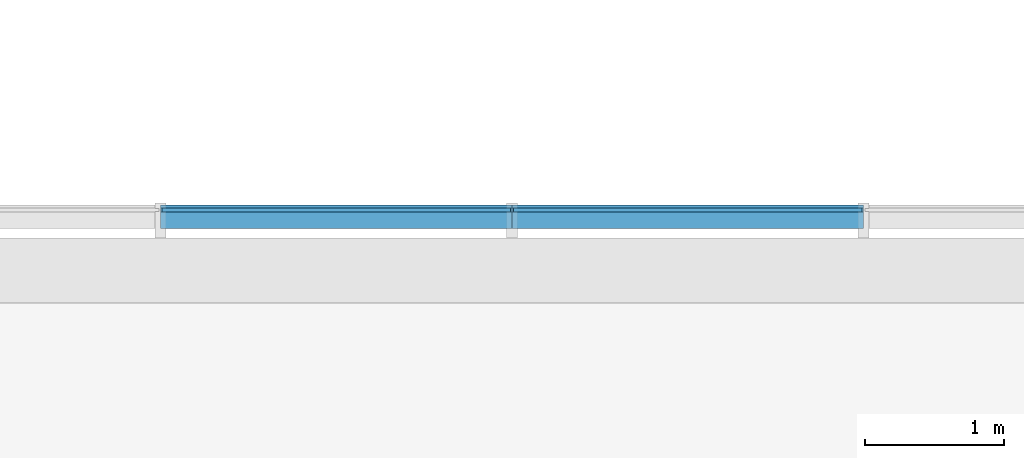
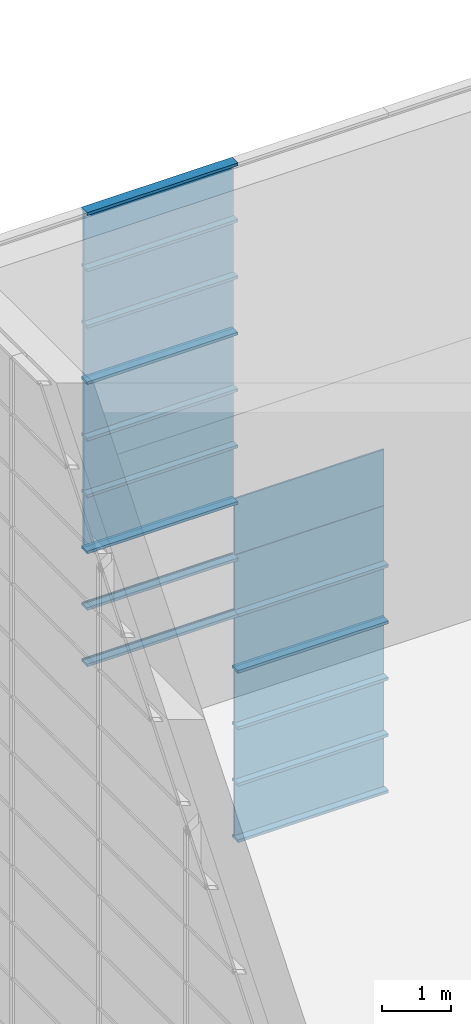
# One storey, part 41 of 105: 29 building element parts, 4 elements without a shape of their own.
"""IFC4 building model written with IfcOpenShell, lengths in millimetres."""

from ifc_helpers import new_model, entity, si_unit, converted_unit, derived_unit, direction, frame, origin_with_axes, place, context, subcontext, project, spatial, triangles, material, element, aggregate, save


model = new_model("IFC4")

# Units and contexts
model_context = context("Model", 3, precision=1e-05, world=origin_with_axes(), true_north=direction((0.0, 1.0)))
body_context = subcontext(model_context, "Body", "Model", "MODEL_VIEW")
ifc_project = project(units=[si_unit("LENGTHUNIT", "METRE", prefix="MILLI"), si_unit("AREAUNIT", "SQUARE_METRE"), si_unit("VOLUMEUNIT", "CUBIC_METRE"), converted_unit("PLANEANGLEUNIT", "DEGREE", entity("IfcLengthMeasure", 0.017453), si_unit("PLANEANGLEUNIT", "RADIAN"), dimensions=[0, 0, 0, 0, 0, 0, 0]), si_unit("SOLIDANGLEUNIT", "STERADIAN"), si_unit("MASSUNIT", "GRAM"), si_unit("TIMEUNIT", "SECOND"), si_unit("THERMODYNAMICTEMPERATUREUNIT", "DEGREE_CELSIUS"), si_unit("LUMINOUSINTENSITYUNIT", "LUMEN"), si_unit("POWERUNIT", "WATT"), derived_unit("THERMALTRANSMITTANCEUNIT", [(si_unit("POWERUNIT", "WATT"), 1), (si_unit("THERMODYNAMICTEMPERATUREUNIT", "KELVIN"), -1), (si_unit("AREAUNIT", "SQUARE_METRE"), -1)])], contexts=[model_context])

# Site, building, storey
site_placement = place(None, origin_with_axes())
site = spatial("IfcSite", under=ifc_project, at=site_placement, Name="Default Site", CompositionType="ELEMENT")
building_placement = place(site_placement, origin_with_axes())
building = spatial("IfcBuilding", under=site, at=building_placement, Name="Default Building", CompositionType="ELEMENT")
storey_placement = place(building_placement, origin_with_axes())
storey = spatial("IfcBuildingStorey", under=building, at=storey_placement, Name="OG - Story", CompositionType="ELEMENT", Elevation=0.0)

# Curtain wall, building element parts
curtain_wall_1_placement = place(storey_placement, origin_with_axes())
curtain_wall_1 = element("IfcCurtainWall", 1, at=curtain_wall_1_placement, inside=storey, Name="Fassade-004", PredefinedType="NOTDEFINED")
ifc_material_1 = material(Name="Normalglas")
building_element_part_1_placement = place(curtain_wall_1_placement, frame((33014.549222, -4389.262838, 0.0), z_axis=(0.0, 0.0, 1.0), x_axis=(1.0, 0.0, 0.0)))
building_element_part_1 = element("IfcBuildingElementPart", 2, at=building_element_part_1_placement, material=ifc_material_1, Name="Normalglas", PredefinedType="NOTDEFINED", context=body_context, shape_type="Tessellation", body=[
    triangles([(6305.789, -14.999, 995.0), (6305.789, 15.0, 995.0), (3799.474, 15.0, 995.0), (3799.474, -14.999, 995.0), (6305.789, -14.999, 5.0), (6305.789, 15.0, 5.0), (3799.474, 15.0, 5.0), (3799.474, -14.999, 5.0)], [[1, 2, 3], [1, 3, 4], [5, 6, 2], [5, 2, 1], [2, 6, 7], [2, 7, 3], [4, 3, 7], [4, 7, 8], [1, 4, 8], [1, 8, 5], [8, 7, 6], [8, 6, 5]], closed=False),
])
building_element_part_2_placement = place(curtain_wall_1_placement, frame((33014.549222, -4389.262838, 0.0), z_axis=(0.0, 0.0, 1.0), x_axis=(1.0, 0.0, 0.0)))
building_element_part_2 = element("IfcBuildingElementPart", 3, at=building_element_part_2_placement, material=ifc_material_1, Name="Normalglas", PredefinedType="NOTDEFINED", context=body_context, shape_type="Tessellation", body=[
    triangles([(6305.789, -14.999, 1995.0), (6305.789, 15.0, 1995.0), (3799.474, 15.0, 1995.0), (3799.474, -14.999, 1995.0), (6305.789, -14.999, 1005.0), (6305.789, 15.0, 1005.0), (3799.474, 15.0, 1005.0), (3799.474, -14.999, 1005.0)], [[1, 2, 3], [1, 3, 4], [5, 6, 2], [5, 2, 1], [2, 6, 7], [2, 7, 3], [4, 3, 7], [4, 7, 8], [1, 4, 8], [1, 8, 5], [8, 7, 6], [8, 6, 5]], closed=False),
])
building_element_part_3_placement = place(curtain_wall_1_placement, frame((33014.549222, -4389.262838, 0.0), z_axis=(0.0, 0.0, 1.0), x_axis=(1.0, 0.0, 0.0)))
building_element_part_3 = element("IfcBuildingElementPart", 4, at=building_element_part_3_placement, material=ifc_material_1, Name="Normalglas", PredefinedType="NOTDEFINED", context=body_context, shape_type="Tessellation", body=[
    triangles([(6305.789, -14.999, 2995.0), (6305.789, 15.0, 2995.0), (3799.474, 15.0, 2995.0), (3799.474, -14.999, 2995.0), (6305.789, -14.999, 2005.0), (6305.789, 15.0, 2005.0), (3799.474, 15.0, 2005.0), (3799.474, -14.999, 2005.0)], [[1, 2, 3], [1, 3, 4], [5, 6, 2], [5, 2, 1], [2, 6, 7], [2, 7, 3], [4, 3, 7], [4, 7, 8], [1, 4, 8], [1, 8, 5], [8, 7, 6], [8, 6, 5]], closed=False),
])
ifc_material_2 = material(Name="Blech")
building_element_part_4_placement = place(curtain_wall_1_placement, frame((33014.549222, -4389.262838, 0.0), z_axis=(0.0, 0.0, 1.0), x_axis=(1.0, 0.0, 0.0)))
building_element_part_4 = element("IfcBuildingElementPart", 5, at=building_element_part_4_placement, material=ifc_material_2, Name="Blech", PredefinedType="NOTDEFINED", context=body_context, shape_type="Tessellation", body=[
    triangles([(6315.789, 35.0, -24.999), (6315.789, 35.0, 25.0), (6315.789, 15.0, 25.0), (6315.789, 15.0, 5.0), (6315.789, -14.999, 5.0), (6315.789, -132.999, 25.0), (6315.789, -132.999, -24.999), (6315.789, -14.999, 25.0), (3789.474, -14.999, 5.0), (3789.474, -14.999, 25.0), (3789.474, -132.999, 25.0), (3789.474, -132.999, -24.999), (3789.474, 35.0, -24.999), (3789.474, 35.0, 25.0), (3789.474, 15.0, 25.0), (3789.474, 15.0, 5.0)], [[1, 2, 3], [1, 3, 4], [1, 4, 5], [1, 5, 6], [1, 6, 7], [8, 6, 5], [5, 9, 10], [5, 10, 8], [10, 11, 6], [10, 6, 8], [11, 12, 7], [11, 7, 6], [12, 13, 1], [12, 1, 7], [13, 14, 2], [13, 2, 1], [3, 2, 14], [3, 14, 15], [15, 16, 4], [15, 4, 3], [4, 16, 9], [4, 9, 5], [15, 16, 13], [13, 16, 9], [13, 9, 11], [11, 9, 10], [13, 11, 12], [15, 13, 14]], closed=False),
])
building_element_part_5_placement = place(curtain_wall_1_placement, frame((33014.549222, -4389.262838, 0.0), z_axis=(0.0, 0.0, 1.0), x_axis=(1.0, 0.0, 0.0)))
building_element_part_5 = element("IfcBuildingElementPart", 6, at=building_element_part_5_placement, material=ifc_material_2, Name="Blech", PredefinedType="NOTDEFINED", context=body_context, shape_type="Tessellation", body=[
    triangles([(6315.789, 35.0, 975.0), (6315.789, 15.0, 975.0), (6315.789, 35.0, 1025.0), (6315.789, 15.0, 995.0), (6315.789, 15.0, 1005.0), (6315.789, -14.999, 995.0), (6315.789, -14.999, 1005.0), (6315.789, -14.999, 1025.0), (6315.789, -14.999, 975.0), (6315.789, -132.999, 975.0), (6315.789, -132.999, 1025.0), (6315.789, 15.0, 1025.0), (3789.474, -14.999, 995.0), (3789.474, 15.0, 995.0), (3789.474, 15.0, 975.0), (3789.474, 35.0, 975.0), (3789.474, 35.0, 1025.0), (3789.474, 15.0, 1025.0), (3789.474, 15.0, 1005.0), (3789.474, -14.999, 1005.0), (3789.474, -14.999, 1025.0), (3789.474, -132.999, 1025.0), (3789.474, -132.999, 975.0), (3789.474, -14.999, 975.0)], [[1, 2, 3], [3, 2, 4], [3, 4, 5], [5, 4, 6], [5, 6, 7], [8, 9, 10], [8, 10, 11], [3, 5, 12], [6, 13, 14], [6, 14, 4], [4, 14, 15], [4, 15, 2], [15, 16, 1], [15, 1, 2], [1, 16, 17], [1, 17, 3], [18, 12, 3], [18, 3, 17], [12, 18, 19], [12, 19, 5], [7, 5, 19], [7, 19, 20], [8, 7, 20], [8, 20, 21], [8, 21, 22], [8, 22, 11], [11, 22, 23], [11, 23, 10], [9, 10, 23], [9, 23, 24], [9, 24, 13], [9, 13, 6], [17, 18, 16], [16, 18, 19], [16, 19, 14], [14, 19, 20], [14, 20, 13], [24, 21, 22], [24, 22, 23], [16, 14, 15]], closed=False),
])
building_element_part_6_placement = place(curtain_wall_1_placement, frame((33014.549222, -4389.262838, 0.0), z_axis=(0.0, 0.0, 1.0), x_axis=(1.0, 0.0, 0.0)))
building_element_part_6 = element("IfcBuildingElementPart", 7, at=building_element_part_6_placement, material=ifc_material_2, Name="Blech", PredefinedType="NOTDEFINED", context=body_context, shape_type="Tessellation", body=[
    triangles([(6315.789, 35.0, 1975.0), (6315.789, 15.0, 1975.0), (6315.789, 35.0, 2025.0), (6315.789, 15.0, 1995.0), (6315.789, 15.0, 2005.0), (6315.789, -14.999, 1995.0), (6315.789, -14.999, 2005.0), (6315.789, -14.999, 2025.0), (6315.789, -14.999, 1975.0), (6315.789, -132.999, 1975.0), (6315.789, -132.999, 2025.0), (6315.789, 15.0, 2025.0), (3789.474, -14.999, 1995.0), (3789.474, 15.0, 1995.0), (3789.474, 15.0, 1975.0), (3789.474, 35.0, 1975.0), (3789.474, 35.0, 2025.0), (3789.474, 15.0, 2025.0), (3789.474, 15.0, 2005.0), (3789.474, -14.999, 2005.0), (3789.474, -14.999, 2025.0), (3789.474, -132.999, 2025.0), (3789.474, -132.999, 1975.0), (3789.474, -14.999, 1975.0)], [[1, 2, 3], [3, 2, 4], [3, 4, 5], [5, 4, 6], [5, 6, 7], [8, 9, 10], [8, 10, 11], [3, 5, 12], [6, 13, 14], [6, 14, 4], [4, 14, 15], [4, 15, 2], [15, 16, 1], [15, 1, 2], [1, 16, 17], [1, 17, 3], [18, 12, 3], [18, 3, 17], [12, 18, 19], [12, 19, 5], [7, 5, 19], [7, 19, 20], [8, 7, 20], [8, 20, 21], [8, 21, 22], [8, 22, 11], [11, 22, 23], [11, 23, 10], [9, 10, 23], [9, 23, 24], [9, 24, 13], [9, 13, 6], [17, 18, 16], [16, 18, 19], [16, 19, 14], [14, 19, 20], [14, 20, 13], [24, 21, 22], [24, 22, 23], [16, 14, 15]], closed=False),
])
building_element_part_7_placement = place(curtain_wall_1_placement, frame((33014.549222, -4389.262838, 0.0), z_axis=(0.0, 0.0, 1.0), x_axis=(1.0, 0.0, 0.0)))
building_element_part_7 = element("IfcBuildingElementPart", 8, at=building_element_part_7_placement, material=ifc_material_2, Name="Blech", PredefinedType="NOTDEFINED", context=body_context, shape_type="Tessellation", body=[
    triangles([(6315.789, 15.0, 2975.0), (6315.789, 15.0, 2995.0), (6315.789, 35.0, 3025.0), (6315.789, -14.999, 2995.0), (6315.789, -132.999, 2975.0), (6315.789, -14.999, 2975.0), (6315.789, -132.999, 3025.0), (6315.789, 35.0, 2975.0), (3789.474, -14.999, 2995.0), (3789.474, 15.0, 2995.0), (3789.474, 15.0, 2975.0), (3789.474, 35.0, 2975.0), (3789.474, 35.0, 3025.0), (3789.474, -132.999, 3025.0), (3789.474, -132.999, 2975.0), (3789.474, -14.999, 2975.0)], [[1, 2, 3], [3, 2, 4], [3, 4, 5], [5, 4, 6], [3, 5, 7], [1, 3, 8], [2, 4, 9], [2, 9, 10], [11, 1, 2], [11, 2, 10], [1, 11, 12], [1, 12, 8], [13, 3, 8], [13, 8, 12], [14, 7, 3], [14, 3, 13], [15, 5, 7], [15, 7, 14], [16, 6, 5], [16, 5, 15], [4, 6, 16], [4, 16, 9], [13, 12, 11], [13, 11, 10], [13, 10, 9], [13, 9, 15], [13, 15, 14], [16, 15, 9]], closed=False),
])
aggregate(curtain_wall_1, [building_element_part_1, building_element_part_2, building_element_part_3, building_element_part_4, building_element_part_5, building_element_part_6, building_element_part_7])

curtain_wall_2_placement = place(storey_placement, origin_with_axes())
curtain_wall_2 = element("IfcCurtainWall", 9, at=curtain_wall_2_placement, inside=storey, Name="Fassade-004", PredefinedType="NOTDEFINED")
building_element_part_8_placement = place(curtain_wall_2_placement, frame((33014.549222, -4389.262838, 3000.0), z_axis=(0.0, 0.0, 1.0), x_axis=(1.0, 0.0, 0.0)))
building_element_part_8 = element("IfcBuildingElementPart", 10, at=building_element_part_8_placement, material=ifc_material_1, Name="Normalglas", PredefinedType="NOTDEFINED", context=body_context, shape_type="Tessellation", body=[
    triangles([(6305.789, -14.999, 995.0), (6305.789, 15.0, 995.0), (3799.474, 15.0, 995.0), (3799.474, -14.999, 995.0), (6305.789, -14.999, 5.0), (6305.789, 15.0, 5.0), (3799.474, 15.0, 5.0), (3799.474, -14.999, 5.0)], [[1, 2, 3], [1, 3, 4], [5, 6, 2], [5, 2, 1], [2, 6, 7], [2, 7, 3], [4, 3, 7], [4, 7, 8], [1, 4, 8], [1, 8, 5], [8, 7, 6], [8, 6, 5]], closed=False),
])
building_element_part_9_placement = place(curtain_wall_2_placement, frame((33014.549222, -4389.262838, 3000.0), z_axis=(0.0, 0.0, 1.0), x_axis=(1.0, 0.0, 0.0)))
building_element_part_9 = element("IfcBuildingElementPart", 11, at=building_element_part_9_placement, material=ifc_material_1, Name="Normalglas", PredefinedType="NOTDEFINED", context=body_context, shape_type="Tessellation", body=[
    triangles([(6305.789, -14.999, 1995.0), (6305.789, 15.0, 1995.0), (3799.474, 15.0, 1995.0), (3799.474, -14.999, 1995.0), (6305.789, -14.999, 1005.0), (6305.789, 15.0, 1005.0), (3799.474, 15.0, 1005.0), (3799.474, -14.999, 1005.0)], [[1, 2, 3], [1, 3, 4], [5, 6, 2], [5, 2, 1], [2, 6, 7], [2, 7, 3], [4, 3, 7], [4, 7, 8], [1, 4, 8], [1, 8, 5], [8, 7, 6], [8, 6, 5]], closed=False),
])
building_element_part_10_placement = place(curtain_wall_2_placement, frame((33014.549222, -4389.262838, 3000.0), z_axis=(0.0, 0.0, 1.0), x_axis=(1.0, 0.0, 0.0)))
building_element_part_10 = element("IfcBuildingElementPart", 12, at=building_element_part_10_placement, material=ifc_material_1, Name="Normalglas", PredefinedType="NOTDEFINED", context=body_context, shape_type="Tessellation", body=[
    triangles([(6305.789, -14.999, 2995.0), (6305.789, 15.0, 2995.0), (3799.474, 15.0, 2995.0), (3799.474, -14.999, 2995.0), (6305.789, -14.999, 2005.0), (6305.789, 15.0, 2005.0), (3799.474, 15.0, 2005.0), (3799.474, -14.999, 2005.0)], [[1, 2, 3], [1, 3, 4], [5, 6, 2], [5, 2, 1], [2, 6, 7], [2, 7, 3], [4, 3, 7], [4, 7, 8], [1, 4, 8], [1, 8, 5], [8, 7, 6], [8, 6, 5]], closed=False),
])
building_element_part_11_placement = place(curtain_wall_2_placement, frame((33014.549222, -4389.262838, 3000.0), z_axis=(0.0, 0.0, 1.0), x_axis=(1.0, 0.0, 0.0)))
building_element_part_11 = element("IfcBuildingElementPart", 13, at=building_element_part_11_placement, material=ifc_material_2, Name="Blech", PredefinedType="NOTDEFINED", context=body_context, shape_type="Tessellation", body=[
    triangles([(6315.789, 35.0, -24.999), (6315.789, 35.0, 25.0), (6315.789, 15.0, 25.0), (6315.789, 15.0, 5.0), (6315.789, -14.999, 5.0), (6315.789, -132.999, 25.0), (6315.789, -132.999, -24.999), (6315.789, -14.999, 25.0), (3789.474, -14.999, 5.0), (3789.474, -14.999, 25.0), (3789.474, -132.999, 25.0), (3789.474, -132.999, -24.999), (3789.474, 35.0, -24.999), (3789.474, 35.0, 25.0), (3789.474, 15.0, 25.0), (3789.474, 15.0, 5.0)], [[1, 2, 3], [1, 3, 4], [1, 4, 5], [1, 5, 6], [1, 6, 7], [8, 6, 5], [5, 9, 10], [5, 10, 8], [10, 11, 6], [10, 6, 8], [11, 12, 7], [11, 7, 6], [12, 13, 1], [12, 1, 7], [13, 14, 2], [13, 2, 1], [3, 2, 14], [3, 14, 15], [15, 16, 4], [15, 4, 3], [4, 16, 9], [4, 9, 5], [15, 16, 13], [13, 16, 9], [13, 9, 11], [11, 9, 10], [13, 11, 12], [15, 13, 14]], closed=False),
])
building_element_part_12_placement = place(curtain_wall_2_placement, frame((33014.549222, -4389.262838, 3000.0), z_axis=(0.0, 0.0, 1.0), x_axis=(1.0, 0.0, 0.0)))
building_element_part_12 = element("IfcBuildingElementPart", 14, at=building_element_part_12_placement, material=ifc_material_2, Name="Blech", PredefinedType="NOTDEFINED", context=body_context, shape_type="Tessellation", body=[
    triangles([(3789.474, 35.0, 975.0), (3789.474, 15.0, 975.0), (3789.474, 35.0, 1025.0), (3789.474, 15.0, 995.0), (3789.474, 15.0, 1005.0), (3789.474, -14.999, 995.0), (3789.474, -14.999, 1005.0), (3789.474, -14.999, 1025.0), (3789.474, -14.999, 975.0), (3789.474, -132.999, 975.0), (3789.474, -132.999, 1025.0), (3789.474, 15.0, 1025.0), (1263.158, -14.999, 995.0), (1263.158, 15.0, 995.0), (1263.158, 15.0, 975.0), (1263.158, 35.0, 975.0), (1263.158, 35.0, 1025.0), (1263.158, 15.0, 1025.0), (1263.158, 15.0, 1005.0), (1263.158, -14.999, 1005.0), (1263.158, -14.999, 1025.0), (1263.158, -132.999, 1025.0), (1263.158, -132.999, 975.0), (1263.158, -14.999, 975.0)], [[1, 2, 3], [3, 2, 4], [3, 4, 5], [5, 4, 6], [5, 6, 7], [8, 9, 10], [8, 10, 11], [3, 5, 12], [6, 13, 14], [6, 14, 4], [4, 14, 15], [4, 15, 2], [15, 16, 1], [15, 1, 2], [1, 16, 17], [1, 17, 3], [18, 12, 3], [18, 3, 17], [12, 18, 19], [12, 19, 5], [7, 5, 19], [7, 19, 20], [8, 7, 20], [8, 20, 21], [8, 21, 22], [8, 22, 11], [11, 22, 23], [11, 23, 10], [9, 10, 23], [9, 23, 24], [9, 24, 13], [9, 13, 6], [17, 18, 16], [16, 18, 19], [16, 19, 14], [14, 19, 20], [14, 20, 13], [24, 21, 22], [24, 22, 23], [16, 14, 15]], closed=False),
])
building_element_part_13_placement = place(curtain_wall_2_placement, frame((33014.549222, -4389.262838, 3000.0), z_axis=(0.0, 0.0, 1.0), x_axis=(1.0, 0.0, 0.0)))
building_element_part_13 = element("IfcBuildingElementPart", 15, at=building_element_part_13_placement, material=ifc_material_2, Name="Blech", PredefinedType="NOTDEFINED", context=body_context, shape_type="Tessellation", body=[
    triangles([(6315.789, 35.0, 975.0), (6315.789, 15.0, 975.0), (6315.789, 35.0, 1025.0), (6315.789, 15.0, 995.0), (6315.789, 15.0, 1005.0), (6315.789, -14.999, 995.0), (6315.789, -14.999, 1005.0), (6315.789, -14.999, 1025.0), (6315.789, -14.999, 975.0), (6315.789, -132.999, 975.0), (6315.789, -132.999, 1025.0), (6315.789, 15.0, 1025.0), (3789.474, -14.999, 995.0), (3789.474, 15.0, 995.0), (3789.474, 15.0, 975.0), (3789.474, 35.0, 975.0), (3789.474, 35.0, 1025.0), (3789.474, 15.0, 1025.0), (3789.474, 15.0, 1005.0), (3789.474, -14.999, 1005.0), (3789.474, -14.999, 1025.0), (3789.474, -132.999, 1025.0), (3789.474, -132.999, 975.0), (3789.474, -14.999, 975.0)], [[1, 2, 3], [3, 2, 4], [3, 4, 5], [5, 4, 6], [5, 6, 7], [8, 9, 10], [8, 10, 11], [3, 5, 12], [6, 13, 14], [6, 14, 4], [4, 14, 15], [4, 15, 2], [15, 16, 1], [15, 1, 2], [1, 16, 17], [1, 17, 3], [18, 12, 3], [18, 3, 17], [12, 18, 19], [12, 19, 5], [7, 5, 19], [7, 19, 20], [8, 7, 20], [8, 20, 21], [8, 21, 22], [8, 22, 11], [11, 22, 23], [11, 23, 10], [9, 10, 23], [9, 23, 24], [9, 24, 13], [9, 13, 6], [17, 18, 16], [16, 18, 19], [16, 19, 14], [14, 19, 20], [14, 20, 13], [24, 21, 22], [24, 22, 23], [16, 14, 15]], closed=False),
])
building_element_part_14_placement = place(curtain_wall_2_placement, frame((33014.549222, -4389.262838, 3000.0), z_axis=(0.0, 0.0, 1.0), x_axis=(1.0, 0.0, 0.0)))
building_element_part_14 = element("IfcBuildingElementPart", 16, at=building_element_part_14_placement, material=ifc_material_2, Name="Blech", PredefinedType="NOTDEFINED", context=body_context, shape_type="Tessellation", body=[
    triangles([(3789.474, 35.0, 1975.0), (3789.474, 15.0, 1975.0), (3789.474, 35.0, 2025.0), (3789.474, 15.0, 1995.0), (3789.474, 15.0, 2005.0), (3789.474, -14.999, 1995.0), (3789.474, -14.999, 2005.0), (3789.474, -14.999, 2025.0), (3789.474, -14.999, 1975.0), (3789.474, -132.999, 1975.0), (3789.474, -132.999, 2025.0), (3789.474, 15.0, 2025.0), (1263.158, -14.999, 1995.0), (1263.158, 15.0, 1995.0), (1263.158, 15.0, 1975.0), (1263.158, 35.0, 1975.0), (1263.158, 35.0, 2025.0), (1263.158, 15.0, 2025.0), (1263.158, 15.0, 2005.0), (1263.158, -14.999, 2005.0), (1263.158, -14.999, 2025.0), (1263.158, -132.999, 2025.0), (1263.158, -132.999, 1975.0), (1263.158, -14.999, 1975.0)], [[1, 2, 3], [3, 2, 4], [3, 4, 5], [5, 4, 6], [5, 6, 7], [8, 9, 10], [8, 10, 11], [3, 5, 12], [6, 13, 14], [6, 14, 4], [4, 14, 15], [4, 15, 2], [15, 16, 1], [15, 1, 2], [1, 16, 17], [1, 17, 3], [18, 12, 3], [18, 3, 17], [12, 18, 19], [12, 19, 5], [7, 5, 19], [7, 19, 20], [8, 7, 20], [8, 20, 21], [8, 21, 22], [8, 22, 11], [11, 22, 23], [11, 23, 10], [9, 10, 23], [9, 23, 24], [9, 24, 13], [9, 13, 6], [17, 18, 16], [16, 18, 19], [16, 19, 14], [14, 19, 20], [14, 20, 13], [24, 21, 22], [24, 22, 23], [16, 14, 15]], closed=False),
])
building_element_part_15_placement = place(curtain_wall_2_placement, frame((33014.549222, -4389.262838, 3000.0), z_axis=(0.0, 0.0, 1.0), x_axis=(1.0, 0.0, 0.0)))
building_element_part_15 = element("IfcBuildingElementPart", 17, at=building_element_part_15_placement, material=ifc_material_2, Name="Blech", PredefinedType="NOTDEFINED", context=body_context, shape_type="Tessellation", body=[
    triangles([(3789.474, 15.0, 2975.0), (3789.474, 15.0, 2995.0), (3789.474, 35.0, 3025.0), (3789.474, -14.999, 2995.0), (3789.474, -132.999, 2975.0), (3789.474, -14.999, 2975.0), (3789.474, -132.999, 3025.0), (3789.474, 35.0, 2975.0), (1263.158, -14.999, 2995.0), (1263.158, 15.0, 2995.0), (1263.158, 15.0, 2975.0), (1263.158, 35.0, 2975.0), (1263.158, 35.0, 3025.0), (1263.158, -132.999, 3025.0), (1263.158, -132.999, 2975.0), (1263.158, -14.999, 2975.0)], [[1, 2, 3], [3, 2, 4], [3, 4, 5], [5, 4, 6], [3, 5, 7], [1, 3, 8], [2, 4, 9], [2, 9, 10], [11, 1, 2], [11, 2, 10], [1, 11, 12], [1, 12, 8], [13, 3, 8], [13, 8, 12], [14, 7, 3], [14, 3, 13], [15, 5, 7], [15, 7, 14], [16, 6, 5], [16, 5, 15], [4, 6, 16], [4, 16, 9], [13, 12, 11], [13, 11, 10], [13, 10, 9], [13, 9, 15], [13, 15, 14], [16, 15, 9]], closed=False),
])
aggregate(curtain_wall_2, [building_element_part_8, building_element_part_9, building_element_part_10, building_element_part_11, building_element_part_12, building_element_part_13, building_element_part_14, building_element_part_15])

curtain_wall_3_placement = place(storey_placement, origin_with_axes())
curtain_wall_3 = element("IfcCurtainWall", 18, at=curtain_wall_3_placement, inside=storey, Name="Fassade-004", PredefinedType="NOTDEFINED")
building_element_part_16_placement = place(curtain_wall_3_placement, frame((33014.549222, -4389.262838, 6000.0), z_axis=(0.0, 0.0, 1.0), x_axis=(1.0, 0.0, 0.0)))
building_element_part_16 = element("IfcBuildingElementPart", 19, at=building_element_part_16_placement, material=ifc_material_1, Name="Normalglas", PredefinedType="NOTDEFINED", context=body_context, shape_type="Tessellation", body=[
    triangles([(3779.474, -14.999, 995.0), (3779.474, 15.0, 995.0), (1273.158, 15.0, 995.0), (1273.158, -14.999, 995.0), (3779.474, -14.999, 5.0), (3779.474, 15.0, 5.0), (1273.158, 15.0, 5.0), (1273.158, -14.999, 5.0)], [[1, 2, 3], [1, 3, 4], [5, 6, 2], [5, 2, 1], [2, 6, 7], [2, 7, 3], [4, 3, 7], [4, 7, 8], [1, 4, 8], [1, 8, 5], [8, 7, 6], [8, 6, 5]], closed=False),
])
building_element_part_17_placement = place(curtain_wall_3_placement, frame((33014.549222, -4389.262838, 6000.0), z_axis=(0.0, 0.0, 1.0), x_axis=(1.0, 0.0, 0.0)))
building_element_part_17 = element("IfcBuildingElementPart", 20, at=building_element_part_17_placement, material=ifc_material_1, Name="Normalglas", PredefinedType="NOTDEFINED", context=body_context, shape_type="Tessellation", body=[
    triangles([(3779.474, -14.999, 1995.0), (3779.474, 15.0, 1995.0), (1273.158, 15.0, 1995.0), (1273.158, -14.999, 1995.0), (3779.474, -14.999, 1005.0), (3779.474, 15.0, 1005.0), (1273.158, 15.0, 1005.0), (1273.158, -14.999, 1005.0)], [[1, 2, 3], [1, 3, 4], [5, 6, 2], [5, 2, 1], [2, 6, 7], [2, 7, 3], [4, 3, 7], [4, 7, 8], [1, 4, 8], [1, 8, 5], [8, 7, 6], [8, 6, 5]], closed=False),
])
building_element_part_18_placement = place(curtain_wall_3_placement, frame((33014.549222, -4389.262838, 6000.0), z_axis=(0.0, 0.0, 1.0), x_axis=(1.0, 0.0, 0.0)))
building_element_part_18 = element("IfcBuildingElementPart", 21, at=building_element_part_18_placement, material=ifc_material_1, Name="Normalglas", PredefinedType="NOTDEFINED", context=body_context, shape_type="Tessellation", body=[
    triangles([(3779.474, -14.999, 2995.0), (3779.474, 15.0, 2995.0), (1273.158, 15.0, 2995.0), (1273.158, -14.999, 2995.0), (3779.474, -14.999, 2005.0), (3779.474, 15.0, 2005.0), (1273.158, 15.0, 2005.0), (1273.158, -14.999, 2005.0)], [[1, 2, 3], [1, 3, 4], [5, 6, 2], [5, 2, 1], [2, 6, 7], [2, 7, 3], [4, 3, 7], [4, 7, 8], [1, 4, 8], [1, 8, 5], [8, 7, 6], [8, 6, 5]], closed=False),
])
building_element_part_19_placement = place(curtain_wall_3_placement, frame((33014.549222, -4389.262838, 6000.0), z_axis=(0.0, 0.0, 1.0), x_axis=(1.0, 0.0, 0.0)))
building_element_part_19 = element("IfcBuildingElementPart", 22, at=building_element_part_19_placement, material=ifc_material_2, Name="Blech", PredefinedType="NOTDEFINED", context=body_context, shape_type="Tessellation", body=[
    triangles([(3789.474, 35.0, -24.999), (3789.474, 35.0, 25.0), (3789.474, 15.0, 25.0), (3789.474, 15.0, 5.0), (3789.474, -14.999, 5.0), (3789.474, -132.999, 25.0), (3789.474, -132.999, -24.999), (3789.474, -14.999, 25.0), (1263.158, -14.999, 5.0), (1263.158, -14.999, 25.0), (1263.158, -132.999, 25.0), (1263.158, -132.999, -24.999), (1263.158, 35.0, -24.999), (1263.158, 35.0, 25.0), (1263.158, 15.0, 25.0), (1263.158, 15.0, 5.0)], [[1, 2, 3], [1, 3, 4], [1, 4, 5], [1, 5, 6], [1, 6, 7], [8, 6, 5], [5, 9, 10], [5, 10, 8], [10, 11, 6], [10, 6, 8], [11, 12, 7], [11, 7, 6], [12, 13, 1], [12, 1, 7], [13, 14, 2], [13, 2, 1], [3, 2, 14], [3, 14, 15], [15, 16, 4], [15, 4, 3], [4, 16, 9], [4, 9, 5], [15, 16, 13], [13, 16, 9], [13, 9, 11], [11, 9, 10], [13, 11, 12], [15, 13, 14]], closed=False),
])
building_element_part_20_placement = place(curtain_wall_3_placement, frame((33014.549222, -4389.262838, 6000.0), z_axis=(0.0, 0.0, 1.0), x_axis=(1.0, 0.0, 0.0)))
building_element_part_20 = element("IfcBuildingElementPart", 23, at=building_element_part_20_placement, material=ifc_material_2, Name="Blech", PredefinedType="NOTDEFINED", context=body_context, shape_type="Tessellation", body=[
    triangles([(3789.474, 35.0, 975.0), (3789.474, 15.0, 975.0), (3789.474, 35.0, 1025.0), (3789.474, 15.0, 995.0), (3789.474, 15.0, 1005.0), (3789.474, -14.999, 995.0), (3789.474, -14.999, 1005.0), (3789.474, -14.999, 1025.0), (3789.474, -14.999, 975.0), (3789.474, -132.999, 975.0), (3789.474, -132.999, 1025.0), (3789.474, 15.0, 1025.0), (1263.158, -14.999, 995.0), (1263.158, 15.0, 995.0), (1263.158, 15.0, 975.0), (1263.158, 35.0, 975.0), (1263.158, 35.0, 1025.0), (1263.158, 15.0, 1025.0), (1263.158, 15.0, 1005.0), (1263.158, -14.999, 1005.0), (1263.158, -14.999, 1025.0), (1263.158, -132.999, 1025.0), (1263.158, -132.999, 975.0), (1263.158, -14.999, 975.0)], [[1, 2, 3], [3, 2, 4], [3, 4, 5], [5, 4, 6], [5, 6, 7], [8, 9, 10], [8, 10, 11], [3, 5, 12], [6, 13, 14], [6, 14, 4], [4, 14, 15], [4, 15, 2], [15, 16, 1], [15, 1, 2], [1, 16, 17], [1, 17, 3], [18, 12, 3], [18, 3, 17], [12, 18, 19], [12, 19, 5], [7, 5, 19], [7, 19, 20], [8, 7, 20], [8, 20, 21], [8, 21, 22], [8, 22, 11], [11, 22, 23], [11, 23, 10], [9, 10, 23], [9, 23, 24], [9, 24, 13], [9, 13, 6], [17, 18, 16], [16, 18, 19], [16, 19, 14], [14, 19, 20], [14, 20, 13], [24, 21, 22], [24, 22, 23], [16, 14, 15]], closed=False),
])
building_element_part_21_placement = place(curtain_wall_3_placement, frame((33014.549222, -4389.262838, 6000.0), z_axis=(0.0, 0.0, 1.0), x_axis=(1.0, 0.0, 0.0)))
building_element_part_21 = element("IfcBuildingElementPart", 24, at=building_element_part_21_placement, material=ifc_material_2, Name="Blech", PredefinedType="NOTDEFINED", context=body_context, shape_type="Tessellation", body=[
    triangles([(3789.474, 35.0, 1975.0), (3789.474, 15.0, 1975.0), (3789.474, 35.0, 2025.0), (3789.474, 15.0, 1995.0), (3789.474, 15.0, 2005.0), (3789.474, -14.999, 1995.0), (3789.474, -14.999, 2005.0), (3789.474, -14.999, 2025.0), (3789.474, -14.999, 1975.0), (3789.474, -132.999, 1975.0), (3789.474, -132.999, 2025.0), (3789.474, 15.0, 2025.0), (1263.158, -14.999, 1995.0), (1263.158, 15.0, 1995.0), (1263.158, 15.0, 1975.0), (1263.158, 35.0, 1975.0), (1263.158, 35.0, 2025.0), (1263.158, 15.0, 2025.0), (1263.158, 15.0, 2005.0), (1263.158, -14.999, 2005.0), (1263.158, -14.999, 2025.0), (1263.158, -132.999, 2025.0), (1263.158, -132.999, 1975.0), (1263.158, -14.999, 1975.0)], [[1, 2, 3], [3, 2, 4], [3, 4, 5], [5, 4, 6], [5, 6, 7], [8, 9, 10], [8, 10, 11], [3, 5, 12], [6, 13, 14], [6, 14, 4], [4, 14, 15], [4, 15, 2], [15, 16, 1], [15, 1, 2], [1, 16, 17], [1, 17, 3], [18, 12, 3], [18, 3, 17], [12, 18, 19], [12, 19, 5], [7, 5, 19], [7, 19, 20], [8, 7, 20], [8, 20, 21], [8, 21, 22], [8, 22, 11], [11, 22, 23], [11, 23, 10], [9, 10, 23], [9, 23, 24], [9, 24, 13], [9, 13, 6], [17, 18, 16], [16, 18, 19], [16, 19, 14], [14, 19, 20], [14, 20, 13], [24, 21, 22], [24, 22, 23], [16, 14, 15]], closed=False),
])
building_element_part_22_placement = place(curtain_wall_3_placement, frame((33014.549222, -4389.262838, 6000.0), z_axis=(0.0, 0.0, 1.0), x_axis=(1.0, 0.0, 0.0)))
building_element_part_22 = element("IfcBuildingElementPart", 25, at=building_element_part_22_placement, material=ifc_material_2, Name="Blech", PredefinedType="NOTDEFINED", context=body_context, shape_type="Tessellation", body=[
    triangles([(3789.474, 15.0, 2975.0), (3789.474, 15.0, 2995.0), (3789.474, 35.0, 3025.0), (3789.474, -14.999, 2995.0), (3789.474, -132.999, 2975.0), (3789.474, -14.999, 2975.0), (3789.474, -132.999, 3025.0), (3789.474, 35.0, 2975.0), (1263.158, -14.999, 2995.0), (1263.158, 15.0, 2995.0), (1263.158, 15.0, 2975.0), (1263.158, 35.0, 2975.0), (1263.158, 35.0, 3025.0), (1263.158, -132.999, 3025.0), (1263.158, -132.999, 2975.0), (1263.158, -14.999, 2975.0)], [[1, 2, 3], [3, 2, 4], [3, 4, 5], [5, 4, 6], [3, 5, 7], [1, 3, 8], [2, 4, 9], [2, 9, 10], [11, 1, 2], [11, 2, 10], [1, 11, 12], [1, 12, 8], [13, 3, 8], [13, 8, 12], [14, 7, 3], [14, 3, 13], [15, 5, 7], [15, 7, 14], [16, 6, 5], [16, 5, 15], [4, 6, 16], [4, 16, 9], [13, 12, 11], [13, 11, 10], [13, 10, 9], [13, 9, 15], [13, 15, 14], [16, 15, 9]], closed=False),
])
aggregate(curtain_wall_3, [building_element_part_16, building_element_part_17, building_element_part_18, building_element_part_19, building_element_part_20, building_element_part_21, building_element_part_22])

curtain_wall_4_placement = place(storey_placement, origin_with_axes())
curtain_wall_4 = element("IfcCurtainWall", 26, at=curtain_wall_4_placement, inside=storey, Name="Fassade-004", PredefinedType="NOTDEFINED")
building_element_part_23_placement = place(curtain_wall_4_placement, frame((33014.549222, -4389.262838, 9000.0), z_axis=(0.0, 0.0, 1.0), x_axis=(1.0, 0.0, 0.0)))
building_element_part_23 = element("IfcBuildingElementPart", 27, at=building_element_part_23_placement, material=ifc_material_1, Name="Normalglas", PredefinedType="NOTDEFINED", context=body_context, shape_type="Tessellation", body=[
    triangles([(3779.474, -14.999, 995.0), (3779.474, 15.0, 995.0), (1273.158, 15.0, 995.0), (1273.158, -14.999, 995.0), (3779.474, -14.999, 5.0), (3779.474, 15.0, 5.0), (1273.158, 15.0, 5.0), (1273.158, -14.999, 5.0)], [[1, 2, 3], [1, 3, 4], [5, 6, 2], [5, 2, 1], [2, 6, 7], [2, 7, 3], [4, 3, 7], [4, 7, 8], [1, 4, 8], [1, 8, 5], [8, 7, 6], [8, 6, 5]], closed=False),
])
building_element_part_24_placement = place(curtain_wall_4_placement, frame((33014.549222, -4389.262838, 9000.0), z_axis=(0.0, 0.0, 1.0), x_axis=(1.0, 0.0, 0.0)))
building_element_part_24 = element("IfcBuildingElementPart", 28, at=building_element_part_24_placement, material=ifc_material_1, Name="Normalglas", PredefinedType="NOTDEFINED", context=body_context, shape_type="Tessellation", body=[
    triangles([(3779.474, -14.999, 1995.0), (3779.474, 15.0, 1995.0), (1273.158, 15.0, 1995.0), (1273.158, -14.999, 1995.0), (3779.474, -14.999, 1005.0), (3779.474, 15.0, 1005.0), (1273.158, 15.0, 1005.0), (1273.158, -14.999, 1005.0)], [[1, 2, 3], [1, 3, 4], [5, 6, 2], [5, 2, 1], [2, 6, 7], [2, 7, 3], [4, 3, 7], [4, 7, 8], [1, 4, 8], [1, 8, 5], [8, 7, 6], [8, 6, 5]], closed=False),
])
building_element_part_25_placement = place(curtain_wall_4_placement, frame((33014.549222, -4389.262838, 9000.0), z_axis=(0.0, 0.0, 1.0), x_axis=(1.0, 0.0, 0.0)))
building_element_part_25 = element("IfcBuildingElementPart", 29, at=building_element_part_25_placement, material=ifc_material_1, Name="Normalglas", PredefinedType="NOTDEFINED", context=body_context, shape_type="Tessellation", body=[
    triangles([(3779.474, -14.999, 2995.0), (3779.474, 15.0, 2995.0), (1273.158, 15.0, 2995.0), (1273.158, -14.999, 2995.0), (3779.474, -14.999, 2005.0), (3779.474, 15.0, 2005.0), (1273.158, 15.0, 2005.0), (1273.158, -14.999, 2005.0)], [[1, 2, 3], [1, 3, 4], [5, 6, 2], [5, 2, 1], [2, 6, 7], [2, 7, 3], [4, 3, 7], [4, 7, 8], [1, 4, 8], [1, 8, 5], [8, 7, 6], [8, 6, 5]], closed=False),
])
building_element_part_26_placement = place(curtain_wall_4_placement, frame((33014.549222, -4389.262838, 9000.0), z_axis=(0.0, 0.0, 1.0), x_axis=(1.0, 0.0, 0.0)))
building_element_part_26 = element("IfcBuildingElementPart", 30, at=building_element_part_26_placement, material=ifc_material_2, Name="Blech", PredefinedType="NOTDEFINED", context=body_context, shape_type="Tessellation", body=[
    triangles([(3789.474, 35.0, -24.999), (3789.474, 35.0, 25.0), (3789.474, 15.0, 25.0), (3789.474, 15.0, 5.0), (3789.474, -14.999, 5.0), (3789.474, -132.999, 25.0), (3789.474, -132.999, -24.999), (3789.474, -14.999, 25.0), (1263.158, -14.999, 5.0), (1263.158, -14.999, 25.0), (1263.158, -132.999, 25.0), (1263.158, -132.999, -24.999), (1263.158, 35.0, -24.999), (1263.158, 35.0, 25.0), (1263.158, 15.0, 25.0), (1263.158, 15.0, 5.0)], [[1, 2, 3], [1, 3, 4], [1, 4, 5], [1, 5, 6], [1, 6, 7], [8, 6, 5], [5, 9, 10], [5, 10, 8], [10, 11, 6], [10, 6, 8], [11, 12, 7], [11, 7, 6], [12, 13, 1], [12, 1, 7], [13, 14, 2], [13, 2, 1], [3, 2, 14], [3, 14, 15], [15, 16, 4], [15, 4, 3], [4, 16, 9], [4, 9, 5], [15, 16, 13], [13, 16, 9], [13, 9, 11], [11, 9, 10], [13, 11, 12], [15, 13, 14]], closed=False),
])
building_element_part_27_placement = place(curtain_wall_4_placement, frame((33014.549222, -4389.262838, 9000.0), z_axis=(0.0, 0.0, 1.0), x_axis=(1.0, 0.0, 0.0)))
building_element_part_27 = element("IfcBuildingElementPart", 31, at=building_element_part_27_placement, material=ifc_material_2, Name="Blech", PredefinedType="NOTDEFINED", context=body_context, shape_type="Tessellation", body=[
    triangles([(3789.474, 35.0, 975.0), (3789.474, 15.0, 975.0), (3789.474, 35.0, 1025.0), (3789.474, 15.0, 995.0), (3789.474, 15.0, 1005.0), (3789.474, -14.999, 995.0), (3789.474, -14.999, 1005.0), (3789.474, -14.999, 1025.0), (3789.474, -14.999, 975.0), (3789.474, -132.999, 975.0), (3789.474, -132.999, 1025.0), (3789.474, 15.0, 1025.0), (1263.158, -14.999, 995.0), (1263.158, 15.0, 995.0), (1263.158, 15.0, 975.0), (1263.158, 35.0, 975.0), (1263.158, 35.0, 1025.0), (1263.158, 15.0, 1025.0), (1263.158, 15.0, 1005.0), (1263.158, -14.999, 1005.0), (1263.158, -14.999, 1025.0), (1263.158, -132.999, 1025.0), (1263.158, -132.999, 975.0), (1263.158, -14.999, 975.0)], [[1, 2, 3], [3, 2, 4], [3, 4, 5], [5, 4, 6], [5, 6, 7], [8, 9, 10], [8, 10, 11], [3, 5, 12], [6, 13, 14], [6, 14, 4], [4, 14, 15], [4, 15, 2], [15, 16, 1], [15, 1, 2], [1, 16, 17], [1, 17, 3], [18, 12, 3], [18, 3, 17], [12, 18, 19], [12, 19, 5], [7, 5, 19], [7, 19, 20], [8, 7, 20], [8, 20, 21], [8, 21, 22], [8, 22, 11], [11, 22, 23], [11, 23, 10], [9, 10, 23], [9, 23, 24], [9, 24, 13], [9, 13, 6], [17, 18, 16], [16, 18, 19], [16, 19, 14], [14, 19, 20], [14, 20, 13], [24, 21, 22], [24, 22, 23], [16, 14, 15]], closed=False),
])
building_element_part_28_placement = place(curtain_wall_4_placement, frame((33014.549222, -4389.262838, 9000.0), z_axis=(0.0, 0.0, 1.0), x_axis=(1.0, 0.0, 0.0)))
building_element_part_28 = element("IfcBuildingElementPart", 32, at=building_element_part_28_placement, material=ifc_material_2, Name="Blech", PredefinedType="NOTDEFINED", context=body_context, shape_type="Tessellation", body=[
    triangles([(3789.474, 35.0, 1975.0), (3789.474, 15.0, 1975.0), (3789.474, 35.0, 2025.0), (3789.474, 15.0, 1995.0), (3789.474, 15.0, 2005.0), (3789.474, -14.999, 1995.0), (3789.474, -14.999, 2005.0), (3789.474, -14.999, 2025.0), (3789.474, -14.999, 1975.0), (3789.474, -132.999, 1975.0), (3789.474, -132.999, 2025.0), (3789.474, 15.0, 2025.0), (1263.158, -14.999, 1995.0), (1263.158, 15.0, 1995.0), (1263.158, 15.0, 1975.0), (1263.158, 35.0, 1975.0), (1263.158, 35.0, 2025.0), (1263.158, 15.0, 2025.0), (1263.158, 15.0, 2005.0), (1263.158, -14.999, 2005.0), (1263.158, -14.999, 2025.0), (1263.158, -132.999, 2025.0), (1263.158, -132.999, 1975.0), (1263.158, -14.999, 1975.0)], [[1, 2, 3], [3, 2, 4], [3, 4, 5], [5, 4, 6], [5, 6, 7], [8, 9, 10], [8, 10, 11], [3, 5, 12], [6, 13, 14], [6, 14, 4], [4, 14, 15], [4, 15, 2], [15, 16, 1], [15, 1, 2], [1, 16, 17], [1, 17, 3], [18, 12, 3], [18, 3, 17], [12, 18, 19], [12, 19, 5], [7, 5, 19], [7, 19, 20], [8, 7, 20], [8, 20, 21], [8, 21, 22], [8, 22, 11], [11, 22, 23], [11, 23, 10], [9, 10, 23], [9, 23, 24], [9, 24, 13], [9, 13, 6], [17, 18, 16], [16, 18, 19], [16, 19, 14], [14, 19, 20], [14, 20, 13], [24, 21, 22], [24, 22, 23], [16, 14, 15]], closed=False),
])
building_element_part_29_placement = place(curtain_wall_4_placement, frame((33014.549222, -4389.262838, 9000.0), z_axis=(0.0, 0.0, 1.0), x_axis=(1.0, 0.0, 0.0)))
building_element_part_29 = element("IfcBuildingElementPart", 33, at=building_element_part_29_placement, material=ifc_material_2, Name="Blech", PredefinedType="NOTDEFINED", context=body_context, shape_type="Tessellation", body=[
    triangles([(3789.474, 15.0, 2975.0), (3789.474, 15.0, 2995.0), (3789.474, 35.0, 3025.0), (3789.474, -14.999, 2995.0), (3789.474, -132.999, 2975.0), (3789.474, -14.999, 2975.0), (3789.474, -132.999, 3025.0), (3789.474, 35.0, 2975.0), (1263.158, -14.999, 2995.0), (1263.158, 15.0, 2995.0), (1263.158, 15.0, 2975.0), (1263.158, 35.0, 2975.0), (1263.158, 35.0, 3025.0), (1263.158, -132.999, 3025.0), (1263.158, -132.999, 2975.0), (1263.158, -14.999, 2975.0)], [[1, 2, 3], [3, 2, 4], [3, 4, 5], [5, 4, 6], [3, 5, 7], [1, 3, 8], [2, 4, 9], [2, 9, 10], [11, 1, 2], [11, 2, 10], [1, 11, 12], [1, 12, 8], [13, 3, 8], [13, 8, 12], [14, 7, 3], [14, 3, 13], [15, 5, 7], [15, 7, 14], [16, 6, 5], [16, 5, 15], [4, 6, 16], [4, 16, 9], [13, 12, 11], [13, 11, 10], [13, 10, 9], [13, 9, 15], [13, 15, 14], [16, 15, 9]], closed=False),
])
aggregate(curtain_wall_4, [building_element_part_23, building_element_part_24, building_element_part_25, building_element_part_26, building_element_part_27, building_element_part_28, building_element_part_29])

save(model, "model.ifc")
